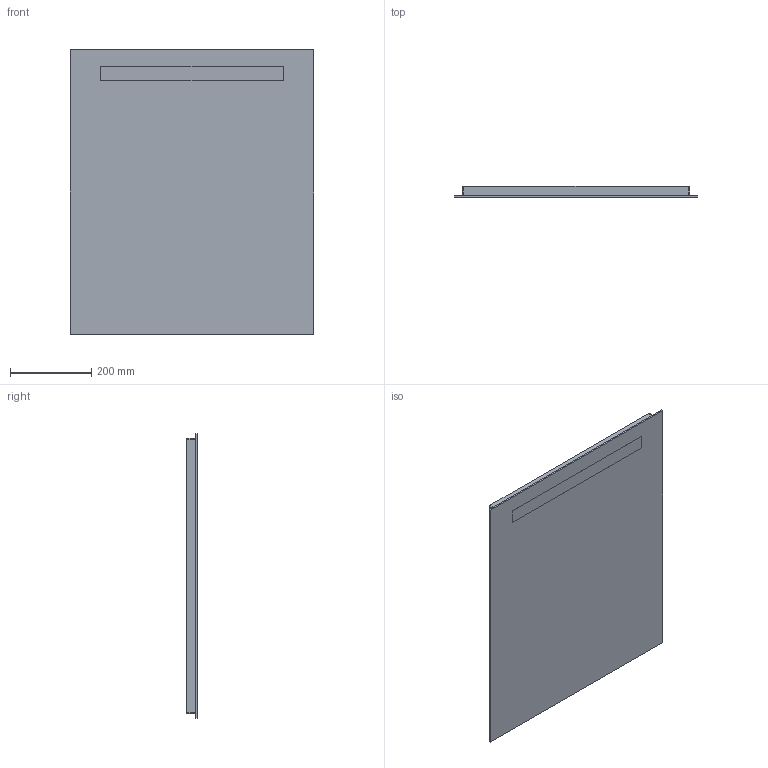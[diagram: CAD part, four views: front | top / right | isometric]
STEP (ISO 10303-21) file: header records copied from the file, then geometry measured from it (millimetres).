
FILE_DESCRIPTION(/* description */ (''),/* implementation_level */ '2;1');
FILE_NAME(/* name */ 'C:\Planerdaten\Export PLA\502.805.00.1\stp\502805.stp',/* time_stamp */ '2022-12-02T15:09:50+01:00',/* author */ ('JANAN'),/* organization */ (''),/* preprocessor_version */ 'ST-DEVELOPER v18.1',/* originating_system */ 'Autodesk Inventor 2021',/* authorisation */ '');
FILE_SCHEMA (('CONFIG_CONTROL_DESIGN','AUTOMOTIVE_DESIGN { 1 0 10303 214 3 1 1 }'));
Length unit declared in the file: millimetre
Products named in the file (1): tmp4FB0.tmp
Bounding box: 600 x 26 x 700 mm (x, y, z)
Volume: 10053844.4 mm3; surface area: 1667533.5 mm2
Topology: 2 solids, 2 shells, 29 faces, 68 edges, 48 vertices
Faces by surface type: plane 21, cylinder 8
Full cylindrical faces by diameter (mm): 8 x4
Entity records: 937 total; most frequent: DIRECTION 152, CARTESIAN_POINT 146, ORIENTED_EDGE 136, EDGE_CURVE 68, AXIS2_PLACEMENT_3D 54, VERTEX_POINT 48, LINE 44, VECTOR 44
